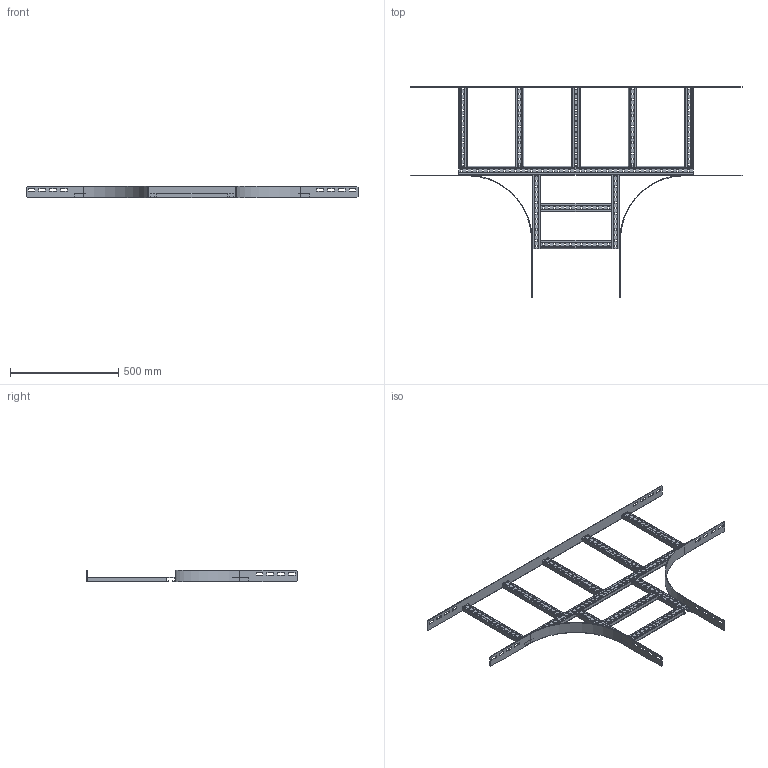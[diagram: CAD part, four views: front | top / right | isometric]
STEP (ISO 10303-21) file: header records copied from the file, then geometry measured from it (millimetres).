
FILE_DESCRIPTION(('Creo Elements/Direct Modeling STEP Export'),'2;1');
FILE_NAME('//pserver/office/EK/ME10-3D/3D-output/WPTP06-40-30.stp','2019-08-14T 9:47:13',(''),(''),'PTC Creo Elements/Direct Modeling STEP processor for AP214 (Solid Model)','PTC Creo Elements/Direct Modeling 19.0C 15-Aug-2015 (C) Parametric Technology GmbH','');
FILE_SCHEMA(('AUTOMOTIVE_DESIGN { 1 0 10303 214 1 1 1 1 }'));
Length unit declared in the file: millimetre
Products named in the file (7): WPHBI_06-300.1; WPKSP1_300-40; WPKSP2_300; WPKS40.1; WPTPS40.1.1.1; WPTPA_06-40-30; WPTP06-40-30-HDG
Assembly tree (13 placements, depth 2):
  WPTP06-40-30-HDG
    WPKS40.1  x2
    WPTPA_06-40-30
    WPTPS40.1.1.1  x5
    WPKSP2_300  x2
    WPKSP1_300-40
    WPHBI_06-300.1  x2
Bounding box: 1535 x 973 x 55 mm (x, y, z)
Volume: 1181948 mm3; surface area: 1260381.6 mm2
Topology: 13 solids, 13 shells, 1236 faces, 3630 edges, 2420 vertices
Faces by surface type: plane 696, cylinder 540
Entity records: 20392 total; most frequent: CARTESIAN_POINT 3499, ORIENTED_EDGE 3492, DIRECTION 3430, EDGE_CURVE 1746, VECTOR 1240, LINE 1240, VERTEX_POINT 1164, AXIS2_PLACEMENT_3D 1095
